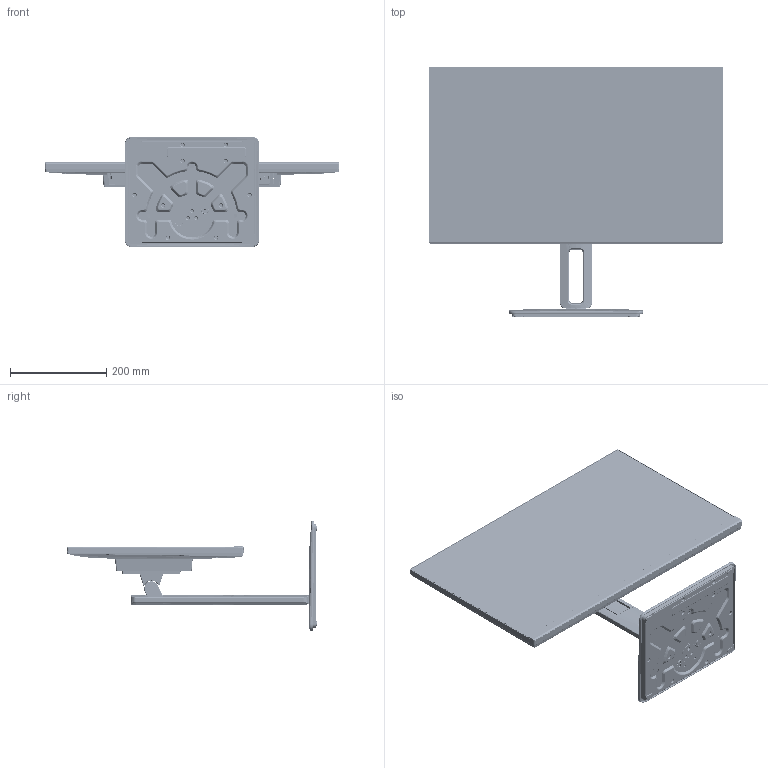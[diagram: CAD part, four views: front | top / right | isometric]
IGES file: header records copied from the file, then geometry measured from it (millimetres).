
Start section: SolidWorks IGES file using analytic representation for surfaces
Global section: file name: C:\Users\eschuettke\Documents\Misc\New folder (2)\3D_step_201020\998-2123 - PXN2710Q.IGS; native system: SolidWorks 2019; preprocessor: SolidWorks 2019; author: eschuettke; date: 201029.185056; units: millimetre
Bounding box: 612.84 x 519.89 x 229.63 mm (x, y, z)
Surface area: 2705148.8 mm2 (no closed solid volume)
Topology: 0 solids, 0 shells, 14321 faces, 135252 edges, 135188 vertices
Faces by surface type: bspline 10117, revolution 4204
